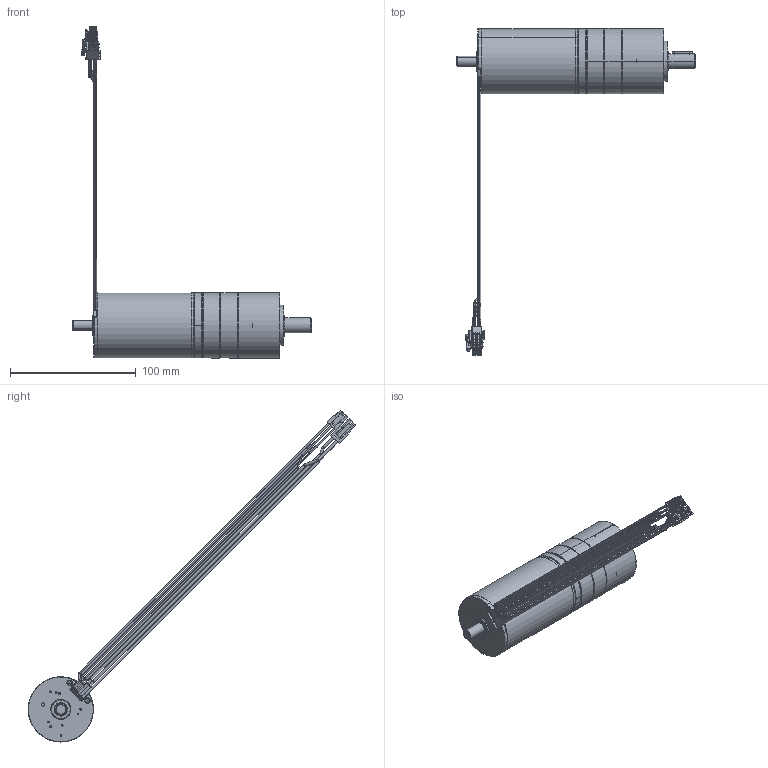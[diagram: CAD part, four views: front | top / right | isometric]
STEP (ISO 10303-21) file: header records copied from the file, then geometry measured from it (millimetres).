
FILE_DESCRIPTION (( 'STEP AP214' ), '1' );
FILE_NAME ('ECI52_+_PM52 - 2etages.STEP', '2016-12-15T15:25:58', ( '' ), ( '' ), 'SwSTEP 2.0', 'SolidWorks 2015', '' );
FILE_SCHEMA (( 'AUTOMOTIVE_DESIGN' ));
Length unit declared in the file: millimetre
Products named in the file (16): 8003165_MOTORRITZEL_Z17; GK2152_POS3_6_ANLAUFSCHEIBE_1ST_3; MOTORFLANSCH_1248336; SCHRAUBE_1241978_7; 8006230_ZAHNKRANZ_Z46_3; 8006405_DICHTRING_3; 4X4X16_D6885A_3; D471_12X1_5_3; 8102168_ABTRIEB_LK1_KPL_3; GK2152_POS31_2_LAGERBOLZEN_3; 8101171_ABTRIEB_ROHTEIL_AF0_3; DIN998_PS_12X18X1_3; D625-6001-2RS_3; 8006231_LAGERFLANSCH_3; ECI52_+_PM52 - 2etages; eci52
Assembly tree (25 placements, depth 3):
  ECI52_+_PM52 - 2etages
    8006231_LAGERFLANSCH_3
    D625-6001-2RS_3  x2
    DIN998_PS_12X18X1_3  x2
    8102168_ABTRIEB_LK1_KPL_3
      8101171_ABTRIEB_ROHTEIL_AF0_3
      GK2152_POS31_2_LAGERBOLZEN_3  x3
    D471_12X1_5_3
    4X4X16_D6885A_3
    8006405_DICHTRING_3  x3
    8006230_ZAHNKRANZ_Z46_3  x2
    SCHRAUBE_1241978_7  x4
    MOTORFLANSCH_1248336
    GK2152_POS3_6_ANLAUFSCHEIBE_1ST_3
    8003165_MOTORRITZEL_Z17
    eci52
Bounding box: 190.05 x 261.02 x 264.54 mm (x, y, z)
Volume: 217099 mm3; surface area: 103306.6 mm2
Topology: 21 solids, 43 shells, 1747 faces, 4583 edges, 2924 vertices
Faces by surface type: plane 768, cylinder 681, cone 161, bspline 89, torus 48
Entity records: 77926 total; most frequent: CARTESIAN_POINT 30036, DIRECTION 7213, ORIENTED_EDGE 7172, EDGE_CURVE 3606, AXIS2_PLACEMENT_3D 2544, VERTEX_POINT 2308, LINE 2125, VECTOR 2125
